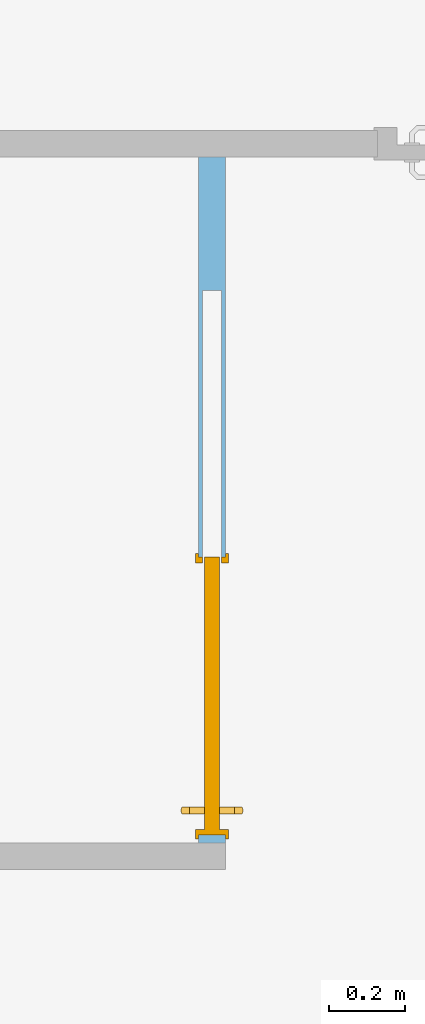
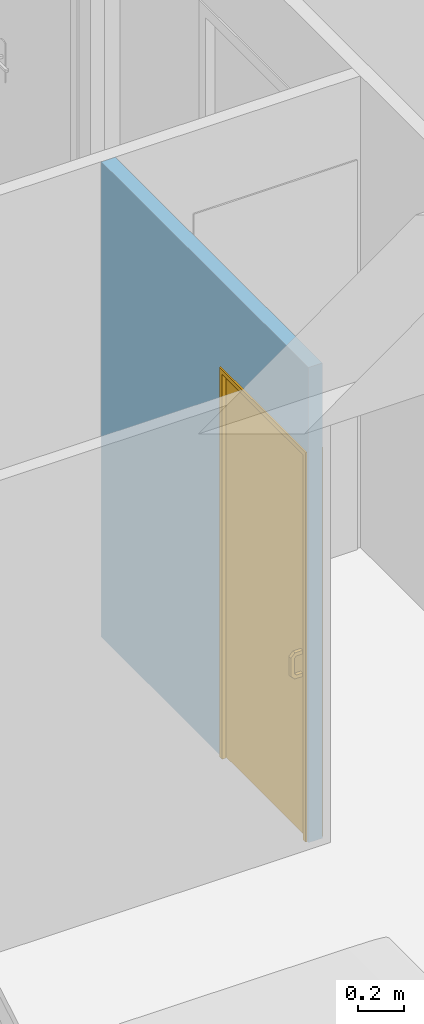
# One storey, part 46 of 61: 1 door, 1 opening, plus 1 element that does not belong to this part.
"""IFC2X3 building model written with IfcOpenShell, lengths in metres."""

import ifcopenshell
import ifcopenshell.guid

model = None  # the IFC model being written
_history = None  # IfcOwnerHistory: only IFC2X3 demands one
_inside = {}  # id of a spatial element -> (the spatial element, [elements in it])
_under = {}  # id of a project, library or spatial element -> (it, [spatial elements below it])
_declared = {}  # id of a project -> (the project, [libraries it declares])
_typed = {}  # id of a type object -> (the type object, [elements of that type])
_made_of = {}  # id of a material, layer set ... -> (it, [elements and type objects made of it])


def new_model(schema):
    """Start an empty IFC model of exactly this schema.

    Asked for "IFC4X3", IfcOpenShell would pick the latest addendum, in which some entities
    have other attributes; the version numbers below select the first issue.
    IFC2X3 requires an IfcOwnerHistory on every rooted entity: one is made here for all.
    """
    global model, _history
    if schema == "IFC4X3":
        model = ifcopenshell.file(schema_version=(4, 3, 0, 0))
    else:
        model = ifcopenshell.file(schema=schema)
    _inside.clear()
    _under.clear()
    _declared.clear()
    _typed.clear()
    _made_of.clear()
    _history = None
    if model.schema == "IFC2X3":
        org = make("IfcOrganization", Name="unknown")
        user = make(
            "IfcPersonAndOrganization",
            ThePerson=make("IfcPerson", FamilyName="unknown"),
            TheOrganization=org,
        )
        app = make(
            "IfcApplication",
            ApplicationDeveloper=org,
            Version="unknown",
            ApplicationFullName="unknown",
            ApplicationIdentifier="unknown",
        )
        _history = make(
            "IfcOwnerHistory",
            OwningUser=user,
            OwningApplication=app,
            ChangeAction="ADDED",
            CreationDate=0,
        )
    return model


def make(cls, **values):
    """One entity of the class cls with the attributes given. An attribute that is None is left unset."""
    return model.create_entity(
        cls, **{name: value for name, value in values.items() if value is not None}
    )


def entity(cls, *values):
    """Any entity or typed value of the class cls, its attributes in the order of the schema. None: left unset."""
    e = model.create_entity(cls)
    for i, value in enumerate(values):
        if value is not None:
            e[i] = value
    return e


def rooted(cls, **values):
    """An entity with a GlobalId (a new one), such as an element, a storey or a relation."""
    return make(cls, GlobalId=ifcopenshell.guid.new(), OwnerHistory=_history, **values)


def si_unit(unit_type, name, prefix=None):
    """IfcSIUnit, for example si_unit("LENGTHUNIT", "METRE", prefix="MILLI")."""
    return make("IfcSIUnit", UnitType=unit_type, Prefix=prefix, Name=name)


def converted_unit(unit_type, name, factor, base, dimensions=None, offset=None):
    """IfcConversionBasedUnit, such as the inch: factor (a typed value) times the base unit."""
    return make(
        "IfcConversionBasedUnit"
        if offset is None
        else "IfcConversionBasedUnitWithOffset",
        ConversionOffset=offset,
        Dimensions=None
        if dimensions is None
        else entity("IfcDimensionalExponents", *dimensions),
        UnitType=unit_type,
        Name=name,
        ConversionFactor=make(
            "IfcMeasureWithUnit", ValueComponent=factor, UnitComponent=base
        ),
    )


def derived_unit(unit_type, elements):
    """IfcDerivedUnit: a product of units, each with its exponent."""
    return make(
        "IfcDerivedUnit",
        Elements=[
            make("IfcDerivedUnitElement", Unit=unit, Exponent=power)
            for unit, power in elements
        ],
        UnitType=unit_type,
    )


def assignment(units):
    """IfcUnitAssignment: the units of a project."""
    return None if units is None else make("IfcUnitAssignment", Units=units)


def point(xyz):
    """IfcCartesianPoint."""
    return None if xyz is None else make("IfcCartesianPoint", Coordinates=xyz)


def direction(xyz):
    """IfcDirection."""
    return None if xyz is None else make("IfcDirection", DirectionRatios=xyz)


def frame(location, z_axis=None, x_axis=None):
    """IfcAxis2Placement3D, a coordinate frame: its origin and axes. An axis left out is left unset."""
    return make(
        "IfcAxis2Placement3D",
        Location=point(location),
        Axis=direction(z_axis),
        RefDirection=direction(x_axis),
    )


def frame_2d(location, x_axis=None):
    """IfcAxis2Placement2D, a coordinate frame in the plane: its origin and x axis."""
    return make(
        "IfcAxis2Placement2D", Location=point(location), RefDirection=direction(x_axis)
    )


def origin():
    """The frame at (0, 0, 0) with its axes left unset."""
    return frame((0.0, 0.0, 0.0))


def place(relative_to, where):
    """IfcLocalPlacement: puts the frame where relative to a parent placement (None: the world)."""
    return make(
        "IfcLocalPlacement", PlacementRelTo=relative_to, RelativePlacement=where
    )


def context(
    kind, dimensions, precision=None, world=None, true_north=None, identifier=None
):
    """IfcGeometricRepresentationContext, for example the 3D "Model" context."""
    return make(
        "IfcGeometricRepresentationContext",
        ContextIdentifier=identifier,
        ContextType=kind,
        CoordinateSpaceDimension=dimensions,
        Precision=precision,
        WorldCoordinateSystem=world,
        TrueNorth=true_north,
    )


def subcontext(parent, identifier, kind, view, scale=None):
    """IfcGeometricRepresentationSubContext, for example "Body" below "Model"."""
    return make(
        "IfcGeometricRepresentationSubContext",
        ContextIdentifier=identifier,
        ContextType=kind,
        ParentContext=parent,
        TargetScale=scale,
        TargetView=view,
    )


def project(units=None, contexts=None):
    """IfcProject with its units and contexts."""
    return rooted(
        "IfcProject",
        Name="project",
        RepresentationContexts=contexts,
        UnitsInContext=assignment(units),
    )


def spatial(cls, under=None, at=None, **own):
    """A site, building, storey or space (cls), placed at a placement, below another one or the project."""
    s = rooted(cls, ObjectPlacement=at, **own)
    if under is not None:
        _under.setdefault(under.id(), (under, []))[1].append(s)
    return s


def profile(cls, at=None, kind="AREA", **sizes):
    """A parametric profile (cls). Its sizes go by their IFC names, for example OverallWidth=200.0."""
    return make(cls, ProfileType=kind, Position=at, **sizes)


def rectangle(**sizes):
    """IfcRectangleProfileDef."""
    return profile("IfcRectangleProfileDef", **sizes)


def extrude(swept, where, along, depth):
    """IfcExtrudedAreaSolid: the profile swept, set in the frame where, extruded along a direction by depth."""
    return make(
        "IfcExtrudedAreaSolid",
        SweptArea=swept,
        Position=where,
        ExtrudedDirection=direction(along),
        Depth=depth,
    )


def faces_of(points, faces, orient=None, outer=None):
    """IfcFace entities. A face is a list of loops; a loop is a list of indices into points, from 0.

    orient and outer hold one flag for each loop. By default every Orientation is true, the
    first loop of a face is its IfcFaceOuterBound and the others are IfcFaceBound.
    """
    made = []
    for i, loops in enumerate(faces):
        bounds = []
        for j, loop in enumerate(loops):
            is_outer = j == 0 if outer is None else outer[i][j]
            bounds.append(
                make(
                    "IfcFaceOuterBound" if is_outer else "IfcFaceBound",
                    Bound=make("IfcPolyLoop", Polygon=[points[k] for k in loop]),
                    Orientation=True if orient is None else orient[i][j],
                )
            )
        made.append(make("IfcFace", Bounds=bounds))
    return made


def faceted_brep(points, faces, orient=None, outer=None, voids=None):
    """IfcFacetedBrep: a solid bounded by flat faces; with voids (closed shells), ...WithVoids."""
    shared = [point(p) for p in points]
    hull = make("IfcClosedShell", CfsFaces=faces_of(shared, faces, orient, outer))
    if voids is None:
        return make("IfcFacetedBrep", Outer=hull)
    return make(
        "IfcFacetedBrepWithVoids",
        Outer=hull,
        Voids=[
            make(cls, CfsFaces=faces_of(shared, fs, o, b)) for cls, fs, o, b in voids
        ],
    )


def shape(context_of_items, identifier, shape_type, items):
    """IfcShapeRepresentation: the items that make up one representation, for example the "Body"."""
    return make(
        "IfcShapeRepresentation",
        ContextOfItems=context_of_items,
        RepresentationIdentifier=identifier,
        RepresentationType=shape_type,
        Items=items,
    )


def source(mapping_origin, context_of_items, identifier, shape_type, items):
    """IfcRepresentationMap: a shape defined once, which mapped items show again and again."""
    return make(
        "IfcRepresentationMap",
        MappingOrigin=mapping_origin,
        MappedRepresentation=shape(context_of_items, identifier, shape_type, items),
    )


def transform(
    local_origin,
    x_axis=None,
    y_axis=None,
    z_axis=None,
    scale=None,
    scale2=None,
    scale3=None,
    uniform=True,
):
    """IfcCartesianTransformationOperator3D, or its non-uniform kind. x_axis, y_axis, z_axis: its Axis1, 2, 3."""
    if uniform:
        return make(
            "IfcCartesianTransformationOperator3D",
            Axis1=direction(x_axis),
            Axis2=direction(y_axis),
            LocalOrigin=point(local_origin),
            Scale=scale,
            Axis3=direction(z_axis),
        )
    return make(
        "IfcCartesianTransformationOperator3DnonUniform",
        Axis1=direction(x_axis),
        Axis2=direction(y_axis),
        LocalOrigin=point(local_origin),
        Scale=scale,
        Axis3=direction(z_axis),
        Scale2=scale2,
        Scale3=scale3,
    )


def mapped(mapping_source, mapping_target):
    """IfcMappedItem: shows the shape of a source again, moved by a transform."""
    return make(
        "IfcMappedItem", MappingSource=mapping_source, MappingTarget=mapping_target
    )


def material(Name=None, Category=None):
    """IfcMaterial."""
    return make("IfcMaterial", Name=Name, Category=Category)


def material_list(materials):
    """IfcMaterialList."""
    return make("IfcMaterialList", Materials=materials)


def layer(
    of_material, thickness, ventilated=None, Name=None, Category=None, Priority=None
):
    """IfcMaterialLayer: one layer of a wall or slab, of a material (None: an air gap)."""
    return make(
        "IfcMaterialLayer",
        Material=of_material,
        LayerThickness=thickness,
        IsVentilated=ventilated,
        Name=Name,
        Category=Category,
        Priority=Priority,
    )


def layer_set(layers, Name=None):
    """IfcMaterialLayerSet."""
    return make("IfcMaterialLayerSet", MaterialLayers=layers, LayerSetName=Name)


def layer_usage(for_layer_set, set_direction, sense, offset, extent=None):
    """IfcMaterialLayerSetUsage: how a layer set lies in its element."""
    return make(
        "IfcMaterialLayerSetUsage",
        ForLayerSet=for_layer_set,
        LayerSetDirection=set_direction,
        DirectionSense=sense,
        OffsetFromReferenceLine=offset,
        ReferenceExtent=extent,
    )


def made_of(thing, what):
    """Note that an element or type object is made of a material, layer set ...; save() writes the relation."""
    if what is not None:
        _made_of.setdefault(what.id(), (what, []))[1].append(thing)
    return thing


def type_object(cls, material=None, **own):
    """A type object (cls), such as IfcWallType, which elements share."""
    return made_of(rooted(cls, **own), material)


def type_shapes(of_type, sources):
    """Give a type object the sources (RepresentationMaps) that its elements show as mapped items."""
    of_type.RepresentationMaps = sources


def element(
    cls,
    number,
    at=None,
    inside=None,
    cuts=None,
    type_object=None,
    material=None,
    context=None,
    identifier="Body",
    shape_type=None,
    held_by="IfcProductDefinitionShape",
    body=None,
    shapes=None,
    **own,
):
    """One element of the class cls, such as IfcWall. Its Tag is "e" and its number.

    at: its placement. inside: the storey or other place that contains it. cuts: it is an
    opening in that element (IfcRelVoidsElement). A single representation is given by context,
    identifier, shape_type and body (its items); several are given by shapes. held_by: the class
    of the entity that holds the representations. save() writes the other relations.
    """
    e = rooted(cls, Tag="e%d" % number, ObjectPlacement=at, **own)
    if body is not None:
        shapes = [shape(context, identifier, shape_type, body)]
    if shapes is not None:
        e.Representation = make(held_by, Representations=shapes)
    if inside is not None:
        _inside.setdefault(inside.id(), (inside, []))[1].append(e)
    if cuts is not None:
        rooted(
            "IfcRelVoidsElement", RelatingBuildingElement=cuts, RelatedOpeningElement=e
        )
    if type_object is not None:
        _typed.setdefault(type_object.id(), (type_object, []))[1].append(e)
    return made_of(e, material)


def fill(opening, filler):
    """IfcRelFillsElement: the door or window that sits in an opening."""
    return rooted(
        "IfcRelFillsElement",
        RelatingOpeningElement=opening,
        RelatedBuildingElement=filler,
    )


def aggregate(whole, parts):
    """IfcRelAggregates: a whole, such as a stair, and the parts it consists of."""
    return rooted("IfcRelAggregates", RelatingObject=whole, RelatedObjects=parts)


def save(model, path):
    """Write the relations noted so far, then the file.

    IfcRelAggregates (storeys below a building ...), IfcRelContainedInSpatialStructure (elements
    in a storey), IfcRelDefinesByType, IfcRelAssociatesMaterial and IfcRelDeclares: one each for
    every whole, place, type object, material and project.
    """
    for whole, parts in _under.values():
        aggregate(whole, parts)
    for where, things in _inside.values():
        rooted(
            "IfcRelContainedInSpatialStructure",
            RelatedElements=things,
            RelatingStructure=where,
        )
    for kind, things in _typed.values():
        rooted("IfcRelDefinesByType", RelatedObjects=things, RelatingType=kind)
    for what, things in _made_of.values():
        rooted("IfcRelAssociatesMaterial", RelatedObjects=things, RelatingMaterial=what)
    for by, libraries in _declared.values():
        rooted("IfcRelDeclares", RelatingContext=by, RelatedDefinitions=libraries)
    model.write(path)


model = new_model("IFC2X3")

# Units and contexts
model_context = context("Model", 3, precision=1e-05, world=origin(), true_north=direction((6.12303176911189e-17, 1.0)))
body_context = subcontext(model_context, "Body", "Model", "MODEL_VIEW")
ifc_project = project(units=[si_unit("LENGTHUNIT", "METRE"), si_unit("AREAUNIT", "SQUARE_METRE"), si_unit("VOLUMEUNIT", "CUBIC_METRE"), converted_unit("PLANEANGLEUNIT", "DEGREE", entity("IfcRatioMeasure", 0.0174532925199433), si_unit("PLANEANGLEUNIT", "RADIAN"), dimensions=[0, 0, 0, 0, 0, 0, 0]), si_unit("MASSUNIT", "GRAM", prefix="KILO"), derived_unit("MASSDENSITYUNIT", [(si_unit("MASSUNIT", "GRAM", prefix="KILO"), 1), (si_unit("LENGTHUNIT", "METRE"), -3)]), si_unit("TIMEUNIT", "SECOND"), si_unit("FREQUENCYUNIT", "HERTZ"), si_unit("THERMODYNAMICTEMPERATUREUNIT", "DEGREE_CELSIUS"), derived_unit("THERMALTRANSMITTANCEUNIT", [(si_unit("MASSUNIT", "GRAM", prefix="KILO"), 1), (si_unit("THERMODYNAMICTEMPERATUREUNIT", "KELVIN"), -1), (si_unit("TIMEUNIT", "SECOND"), -3)]), derived_unit("VOLUMETRICFLOWRATEUNIT", [(si_unit("LENGTHUNIT", "METRE"), 3), (si_unit("TIMEUNIT", "SECOND"), -1)]), si_unit("ELECTRICCURRENTUNIT", "AMPERE"), si_unit("ELECTRICVOLTAGEUNIT", "VOLT"), si_unit("POWERUNIT", "WATT"), si_unit("FORCEUNIT", "NEWTON", prefix="KILO"), si_unit("ILLUMINANCEUNIT", "LUX"), si_unit("LUMINOUSFLUXUNIT", "LUMEN"), si_unit("LUMINOUSINTENSITYUNIT", "CANDELA"), derived_unit("USERDEFINED", [(si_unit("MASSUNIT", "GRAM", prefix="KILO"), -1), (si_unit("LENGTHUNIT", "METRE"), -2), (si_unit("TIMEUNIT", "SECOND"), 3), (si_unit("LUMINOUSFLUXUNIT", "LUMEN"), 1)]), derived_unit("LINEARVELOCITYUNIT", [(si_unit("LENGTHUNIT", "METRE"), 1), (si_unit("TIMEUNIT", "SECOND"), -1)]), si_unit("PRESSUREUNIT", "PASCAL"), derived_unit("USERDEFINED", [(si_unit("LENGTHUNIT", "METRE"), -2), (si_unit("MASSUNIT", "GRAM", prefix="KILO"), 1), (si_unit("TIMEUNIT", "SECOND"), -2)])], contexts=[model_context])

# Site, building, storey
site_placement = place(None, origin())
site = spatial("IfcSite", under=ifc_project, at=site_placement, Name="Surface", CompositionType="ELEMENT")
building_placement = place(site_placement, origin())
building = spatial("IfcBuilding", under=site, at=building_placement, CompositionType="ELEMENT")
storey_placement = place(building_placement, frame((0.0, 0.0, 2.82)))
storey = spatial("IfcBuildingStorey", under=building, at=storey_placement, Name="ETAGE", CompositionType="ELEMENT", Elevation=2.82)

# Wall, opening, door
ifc_material_1 = material(Name="Peinture - Blanc")
ifc_layer = layer(ifc_material_1, 0.07)
ifc_layer_set = layer_set([ifc_layer], Name="Mur de base:Int.  Platre 70 mm en blanc")
ifc_layer_usage = layer_usage(ifc_layer_set, "AXIS2", "NEGATIVE", 0.035)
wall_type = type_object("IfcWallType", Name="Mur de base:Int.  Platre 70 mm en blanc", PredefinedType="STANDARD", material=ifc_layer_set)
wall_placement = place(storey_placement, frame((71.4896263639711, 82.5677566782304, 0.0), z_axis=(0.0, 0.0, 1.0), x_axis=(0.0, -1.0, 0.0)))
wall = element("IfcWallStandardCase", 1, at=wall_placement, inside=storey, type_object=wall_type, material=ifc_layer_usage, Name="Mur de base:Int.  Platre 70 mm en blanc", ObjectType="Mur de base:Int.  Platre 70 mm en blanc", context=body_context, shape_type="SweptSolid", body=[
    extrude(rectangle(XDim=1.80000000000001, YDim=0.0700000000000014, at=frame_2d((0.900000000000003, 0.0), x_axis=(-1.0, 0.0))), origin(), (0.0, 0.0, 1.0), 2.52),
])
opening_placement = place(wall_placement, frame((1.77999999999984, -0.185000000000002, 0.0), z_axis=(0.0, 0.0, 1.0), x_axis=(0.0, 1.0, 0.0)))
opening = element("IfcOpeningElement", 2, at=opening_placement, cuts=wall, Name="Mur de base:Int.  Platre 70 mm en blanc", ObjectType="Opening", context=body_context, shape_type="Brep", body=[
    faceted_brep([(0.370000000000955, 0.0, 2.055), (0.0, 0.0, 2.055), (0.0, 0.0, 0.0), (0.370000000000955, 0.0, 0.0), (0.370000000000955, 0.730000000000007, 2.055), (0.370000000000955, 0.72999999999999, 0.0), (0.210000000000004, 0.730000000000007, 2.055), (0.209999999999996, 0.72999999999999, 0.0), (0.210000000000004, 1.43, 2.055), (0.209999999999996, 1.43, 0.0), (0.159999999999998, 1.43, 2.055), (0.159999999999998, 1.43, 0.0), (0.159999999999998, 0.730000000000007, 2.055), (0.159999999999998, 0.72999999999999, 0.0), (0.0, 0.730000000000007, 2.055), (0.0, 0.730000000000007, 0.0)], [[[0, 1, 2, 3]], [[4, 0, 3, 5]], [[6, 4, 5, 7]], [[8, 6, 7, 9]], [[10, 8, 9, 11]], [[12, 10, 11, 13]], [[14, 1, 0, 4, 6, 8, 10, 12]], [[15, 13, 11, 9, 7, 5, 3, 2]], [[1, 14, 15, 2]], [[14, 12, 13, 15]]]),
])
ifc_material_2 = material(Name="Porte - Poignée")
ifc_material_3 = material(Name="Porte - Panneau")
ifc_material_4 = material(Name="Porte - Cadre")
ifc_material_list_1 = material_list([ifc_material_2, ifc_material_3, ifc_material_4])
ifc_material_list_2 = material_list([ifc_material_2, ifc_material_3, ifc_material_4])
door_style = type_object("IfcDoorStyle", Name="0.70m x 2.04m 2", ConstructionType="NOTDEFINED", OperationType="NOTDEFINED", ParameterTakesPrecedence=False, Sizeable=False, material=ifc_material_list_2)
shared_shape = source(origin(), body_context, "Body", "Brep", [
    faceted_brep([(1.36963922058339, -0.165000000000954, 0.949316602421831), (1.374, -0.165000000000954, 0.951000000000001), (1.374, -0.165000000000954, 0.969), (1.36963922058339, -0.165000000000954, 0.97068339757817), (1.365, -0.165000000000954, 0.971255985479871), (1.36036077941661, -0.165000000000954, 0.97068339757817), (1.356, -0.165000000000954, 0.969), (1.356, -0.165000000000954, 0.951000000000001), (1.36036077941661, -0.165000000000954, 0.94931660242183), (1.365, -0.165000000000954, 0.94874401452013), (1.36963922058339, -0.16500000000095, 0.829316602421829), (1.374, -0.165000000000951, 0.831), (1.374, -0.165000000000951, 0.848999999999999), (1.36963922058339, -0.16500000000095, 0.850683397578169), (1.365, -0.16500000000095, 0.85125598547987), (1.36036077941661, -0.16500000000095, 0.850683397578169), (1.356, -0.16500000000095, 0.848999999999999), (1.356, -0.16500000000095, 0.831), (1.36036077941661, -0.16500000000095, 0.829316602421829), (1.365, -0.16500000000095, 0.828744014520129), (1.356, -0.133727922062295, 0.848999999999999), (1.356, -0.124000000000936, 0.858727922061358), (1.356, -0.124000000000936, 0.941272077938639), (1.356, -0.133727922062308, 0.951000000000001), (1.356, -0.126272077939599, 0.969), (1.356, -0.106000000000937, 0.948727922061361), (1.356, -0.106000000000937, 0.851272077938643), (1.356, -0.126272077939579, 0.831), (1.36036077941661, -0.125574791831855, 0.97068339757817), (1.365, -0.12533761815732, 0.971255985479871), (1.36963922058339, -0.125574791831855, 0.97068339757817), (1.374, -0.126272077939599, 0.969), (1.374, -0.133727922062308, 0.951000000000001), (1.374, -0.124000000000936, 0.941272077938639), (1.374, -0.124000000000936, 0.858727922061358), (1.374, -0.133727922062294, 0.848999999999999), (1.374, -0.126272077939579, 0.831), (1.374, -0.106000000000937, 0.851272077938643), (1.374, -0.106000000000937, 0.948727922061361), (1.36963922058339, -0.134425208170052, 0.949316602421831), (1.365, -0.134662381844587, 0.94874401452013), (1.36036077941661, -0.134425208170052, 0.94931660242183), (1.36036077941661, -0.104316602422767, 0.949425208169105), (1.365, -0.103744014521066, 0.949662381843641), (1.36963922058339, -0.104316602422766, 0.949425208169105), (1.36963922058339, -0.125683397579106, 0.940574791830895), (1.365, -0.126255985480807, 0.940337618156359), (1.36036077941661, -0.125683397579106, 0.940574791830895), (1.36036077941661, -0.104316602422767, 0.850574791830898), (1.365, -0.103744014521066, 0.850337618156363), (1.36963922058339, -0.104316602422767, 0.850574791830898), (1.36963922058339, -0.125683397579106, 0.859425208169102), (1.365, -0.126255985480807, 0.859662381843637), (1.36036077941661, -0.125683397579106, 0.859425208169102), (1.36036077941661, -0.125574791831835, 0.829316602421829), (1.365, -0.1253376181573, 0.828744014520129), (1.36963922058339, -0.125574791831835, 0.829316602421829), (1.36963922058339, -0.134425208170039, 0.850683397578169), (1.365, -0.134662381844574, 0.85125598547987), (1.36036077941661, -0.134425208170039, 0.850683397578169)], [[[0, 1, 2, 3, 4, 5, 6, 7, 8, 9]], [[10, 11, 12, 13, 14, 15, 16, 17, 18, 19]], [[16, 20, 21, 22, 23, 7, 6, 24, 25, 26, 27, 17]], [[5, 28, 24, 6]], [[4, 29, 28, 5]], [[4, 3, 30, 29]], [[2, 31, 30, 3]], [[1, 32, 33, 34, 35, 12, 11, 36, 37, 38, 31, 2]], [[1, 0, 39, 32]], [[40, 39, 0, 9]], [[7, 23, 41, 8]], [[40, 9, 8, 41]], [[24, 28, 42, 25]], [[29, 43, 42, 28]], [[30, 44, 43, 29]], [[30, 31, 38, 44]], [[32, 39, 45, 33]], [[46, 45, 39, 40]], [[41, 23, 22, 47]], [[47, 46, 40, 41]], [[42, 48, 26, 25]], [[43, 49, 48, 42]], [[44, 50, 49, 43]], [[44, 38, 37, 50]], [[45, 51, 34, 33]], [[51, 45, 46, 52]], [[22, 21, 53, 47]], [[52, 46, 47, 53]], [[26, 48, 54, 27]], [[49, 55, 54, 48]], [[50, 56, 55, 49]], [[50, 37, 36, 56]], [[34, 51, 57, 35]], [[58, 57, 51, 52]], [[53, 21, 20, 59]], [[59, 58, 52, 53]], [[27, 54, 18, 17]], [[19, 18, 54, 55]], [[36, 11, 10, 56]], [[19, 55, 56, 10]], [[57, 13, 12, 35]], [[13, 57, 58, 14]], [[59, 20, 16, 15]], [[15, 14, 58, 59]]]),
    faceted_brep([(1.365, -0.205000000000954, 0.971255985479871), (1.36963922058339, -0.205000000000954, 0.97068339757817), (1.374, -0.205000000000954, 0.969), (1.374, -0.205000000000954, 0.951000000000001), (1.36963922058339, -0.205000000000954, 0.94931660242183), (1.365, -0.205000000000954, 0.94874401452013), (1.36036077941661, -0.205000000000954, 0.94931660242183), (1.356, -0.205000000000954, 0.951000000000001), (1.356, -0.205000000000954, 0.969), (1.36036077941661, -0.205000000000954, 0.97068339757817), (1.36963922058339, -0.205000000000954, 0.850683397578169), (1.374, -0.205000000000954, 0.848999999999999), (1.374, -0.205000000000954, 0.831), (1.36963922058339, -0.205000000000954, 0.829316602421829), (1.365, -0.205000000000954, 0.828744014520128), (1.36036077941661, -0.205000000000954, 0.829316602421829), (1.356, -0.205000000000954, 0.831), (1.356, -0.205000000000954, 0.848999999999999), (1.36036077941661, -0.205000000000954, 0.850683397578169), (1.365, -0.205000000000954, 0.85125598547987), (1.36963922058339, -0.244425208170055, 0.97068339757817), (1.374, -0.243727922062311, 0.969), (1.365, -0.244662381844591, 0.971255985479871), (1.36036077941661, -0.244425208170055, 0.970683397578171), (1.356, -0.243727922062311, 0.969), (1.356, -0.236272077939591, 0.951000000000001), (1.356, -0.246000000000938, 0.941272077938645), (1.356, -0.246000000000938, 0.858727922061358), (1.356, -0.236272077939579, 0.848999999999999), (1.356, -0.243727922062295, 0.831), (1.356, -0.264000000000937, 0.851272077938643), (1.356, -0.264000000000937, 0.948727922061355), (1.36036077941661, -0.235574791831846, 0.94931660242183), (1.365, -0.23533761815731, 0.94874401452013), (1.374, -0.23627207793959, 0.951000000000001), (1.36963922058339, -0.235574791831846, 0.94931660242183), (1.374, -0.236272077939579, 0.848999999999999), (1.374, -0.246000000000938, 0.858727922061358), (1.374, -0.246000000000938, 0.941272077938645), (1.374, -0.264000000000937, 0.948727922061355), (1.374, -0.264000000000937, 0.851272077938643), (1.374, -0.243727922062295, 0.831), (1.36963922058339, -0.265683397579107, 0.949425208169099), (1.365, -0.266255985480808, 0.949662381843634), (1.36036077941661, -0.265683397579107, 0.949425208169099), (1.36036077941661, -0.244316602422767, 0.940574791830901), (1.365, -0.243744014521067, 0.940337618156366), (1.36963922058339, -0.244316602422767, 0.940574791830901), (1.36963922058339, -0.265683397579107, 0.850574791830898), (1.365, -0.266255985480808, 0.850337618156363), (1.36036077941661, -0.265683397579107, 0.850574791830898), (1.36036077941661, -0.244316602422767, 0.859425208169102), (1.365, -0.243744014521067, 0.859662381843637), (1.36963922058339, -0.244316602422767, 0.859425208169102), (1.36963922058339, -0.244425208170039, 0.829316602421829), (1.365, -0.244662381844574, 0.828744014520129), (1.36036077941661, -0.244425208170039, 0.829316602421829), (1.36036077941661, -0.235574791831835, 0.850683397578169), (1.365, -0.2353376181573, 0.85125598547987), (1.36963922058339, -0.235574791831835, 0.850683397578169)], [[[0, 1, 2, 3, 4, 5, 6, 7, 8, 9]], [[10, 11, 12, 13, 14, 15, 16, 17, 18, 19]], [[1, 20, 21, 2]], [[0, 22, 20, 1]], [[0, 9, 23, 22]], [[8, 24, 23, 9]], [[7, 25, 26, 27, 28, 17, 16, 29, 30, 31, 24, 8]], [[7, 6, 32, 25]], [[33, 32, 6, 5]], [[3, 34, 35, 4]], [[33, 5, 4, 35]], [[11, 36, 37, 38, 34, 3, 2, 21, 39, 40, 41, 12]], [[20, 42, 39, 21]], [[22, 43, 42, 20]], [[23, 44, 43, 22]], [[23, 24, 31, 44]], [[25, 32, 45, 26]], [[46, 45, 32, 33]], [[35, 34, 38, 47]], [[47, 46, 33, 35]], [[42, 48, 40, 39]], [[43, 49, 48, 42]], [[44, 50, 49, 43]], [[44, 31, 30, 50]], [[45, 51, 27, 26]], [[51, 45, 46, 52]], [[38, 37, 53, 47]], [[52, 46, 47, 53]], [[48, 54, 41, 40]], [[49, 55, 54, 48]], [[50, 56, 55, 49]], [[50, 30, 29, 56]], [[27, 51, 57, 28]], [[58, 57, 51, 52]], [[53, 37, 36, 59]], [[59, 58, 52, 53]], [[41, 54, 13, 12]], [[14, 13, 54, 55]], [[29, 16, 15, 56]], [[14, 55, 56, 15]], [[57, 18, 17, 28]], [[18, 57, 58, 19]], [[59, 36, 11, 10]], [[10, 19, 58, 59]]]),
    faceted_brep([(1.415, -0.205000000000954, 2.04), (1.415, -0.165000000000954, 2.04), (0.7, -0.165000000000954, 2.04), (0.7, -0.205000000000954, 2.04), (1.415, -0.205000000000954, 0.0), (0.7, -0.205000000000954, 0.0), (0.7, -0.165000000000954, 0.0), (1.415, -0.165000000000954, 0.0)], [[[0, 1, 2, 3]], [[4, 5, 6, 7]], [[1, 0, 4, 7]], [[2, 1, 7, 6]], [[3, 2, 6, 5]], [[0, 3, 5, 4]]]),
    faceted_brep([(0.7, -0.149999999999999, 0.0), (0.69, -0.149999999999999, 0.0), (0.69, -0.142000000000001, 0.0), (0.714999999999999, -0.142000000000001, 0.0), (0.714999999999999, -0.160000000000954, 0.0), (0.7, -0.160000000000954, 0.0), (0.7, -0.149999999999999, 2.055), (1.43, -0.149999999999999, 2.055), (1.43, -0.149999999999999, 0.0), (1.44, -0.149999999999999, 0.0), (1.44, -0.149999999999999, 2.065), (0.69, -0.149999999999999, 2.065), (0.69, -0.142000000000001, 2.065), (1.44, -0.142000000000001, 2.065), (1.44, -0.142000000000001, 0.0), (1.415, -0.142000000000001, 0.0), (1.415, -0.142000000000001, 2.04), (0.714999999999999, -0.142000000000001, 2.04), (0.714999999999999, -0.160000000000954, 2.04), (0.7, -0.160000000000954, 2.04), (0.7, -0.220000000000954, 0.0), (0.7, -0.220000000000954, 2.055), (0.7, -0.210000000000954, 2.04), (0.7, -0.210000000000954, 0.0), (0.69, -0.228000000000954, 0.0), (0.714999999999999, -0.228000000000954, 0.0), (0.714999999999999, -0.228000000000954, 2.04), (1.415, -0.228000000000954, 2.04), (1.415, -0.228000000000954, 0.0), (1.44, -0.228000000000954, 0.0), (1.44, -0.228000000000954, 2.065), (0.69, -0.228000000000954, 2.065), (0.69, -0.220000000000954, 0.0), (0.69, -0.220000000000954, 2.065), (1.44, -0.220000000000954, 2.065), (1.44, -0.220000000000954, 0.0), (1.43, -0.220000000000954, 0.0), (1.43, -0.220000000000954, 2.055), (0.714999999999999, -0.210000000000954, 2.04), (0.714999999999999, -0.210000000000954, 0.0)], [[[0, 1, 2, 3, 4, 5]], [[1, 0, 6, 7, 8, 9, 10, 11]], [[2, 1, 11, 12]], [[3, 2, 12, 13, 14, 15, 16, 17]], [[3, 17, 18, 4]], [[18, 19, 5, 4]], [[20, 21, 6, 0, 5, 19, 22, 23]], [[24, 25, 26, 27, 28, 29, 30, 31]], [[32, 24, 31, 33]], [[20, 32, 33, 34, 35, 36, 37, 21]], [[22, 38, 39, 23]], [[8, 7, 37, 36]], [[9, 8, 36, 35, 29, 28, 15, 14]], [[10, 9, 14, 13]], [[16, 15, 28, 27]], [[30, 29, 35, 34]], [[6, 21, 37, 7]], [[11, 10, 13, 12]], [[17, 16, 27, 26, 38, 22, 19, 18]], [[31, 30, 34, 33]], [[26, 25, 39, 38]], [[25, 24, 32, 20, 23, 39]]]),
])
type_shapes(door_style, [shared_shape])
door_placement = place(opening_placement, frame((0.370000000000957, 1.43000000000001, 0.0), z_axis=(0.0, 0.0, 1.0), x_axis=(0.0, -1.0, 0.0)))
door = element("IfcDoor", 3, at=door_placement, inside=storey, type_object=door_style, material=ifc_material_list_1, Name="Coulissante - Encastrée:0.70m x 2.04m 2", ObjectType="Coulissante - Encastrée:0.70m x 2.04m 2", OverallHeight=2.065, OverallWidth=1.44000000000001, context=body_context, shape_type="MappedRepresentation", body=[
    mapped(shared_shape, transform((0.0, 0.0, 0.0), scale=1.0)),
])
fill(opening, door)

save(model, "model.ifc")
